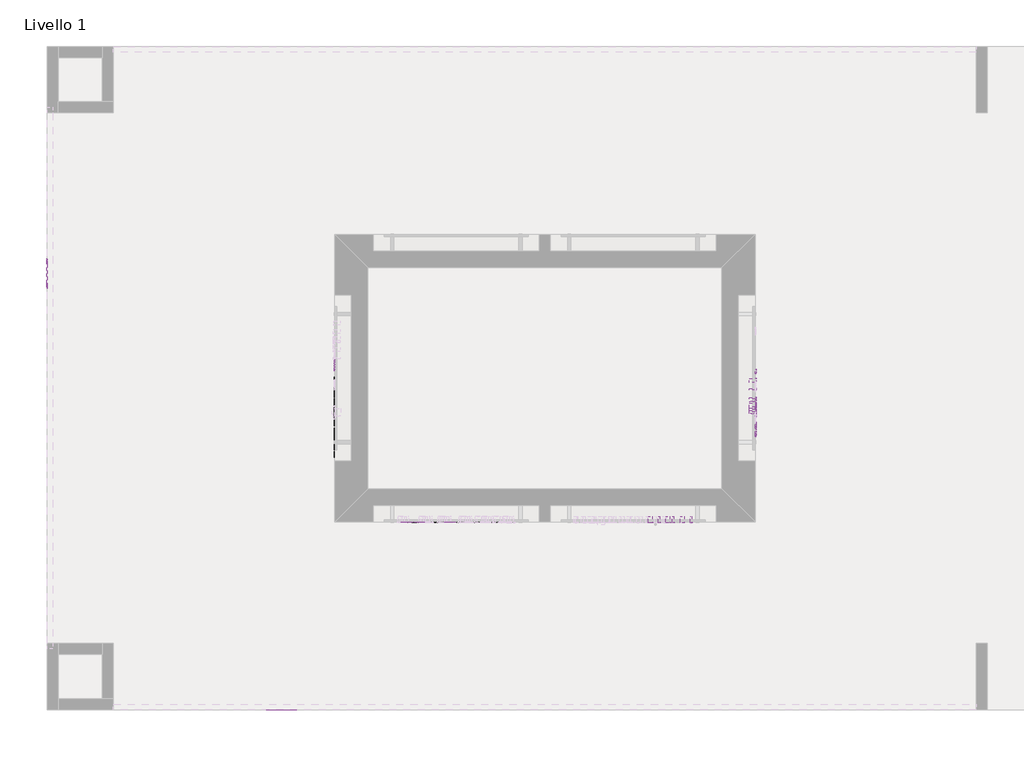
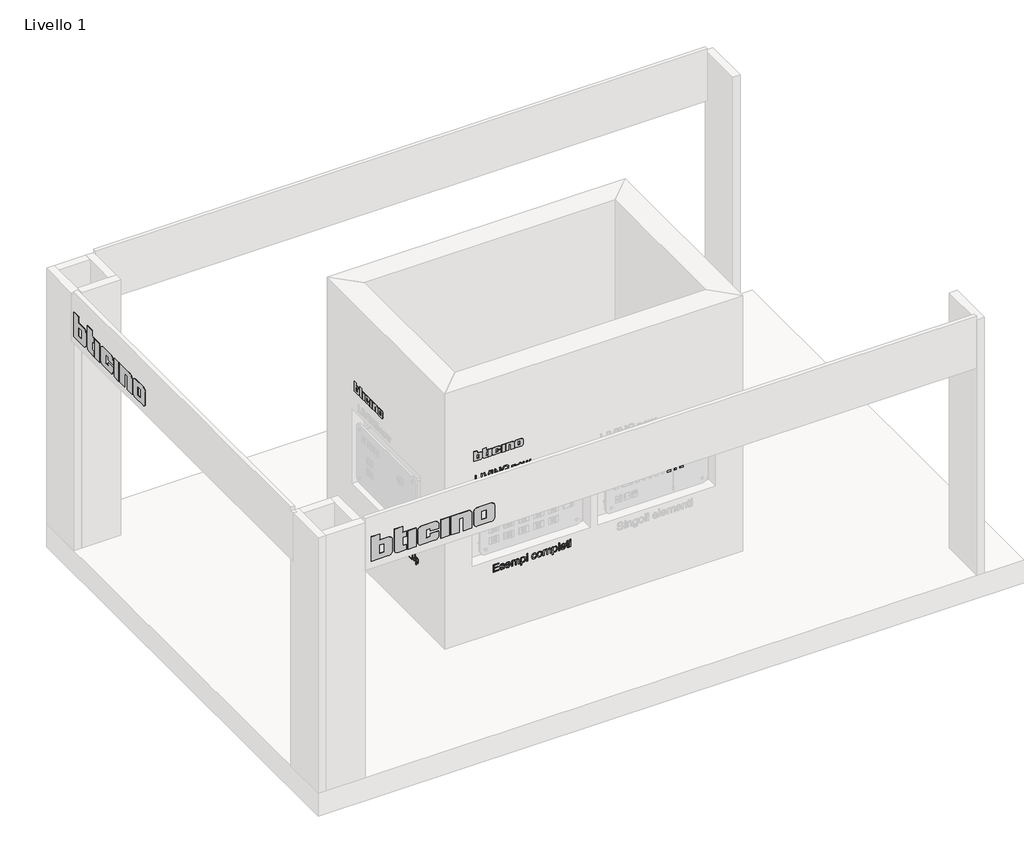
# One storey, part 3 of 4: 29 proxies, 1 switching device.
"""IFC4 building model written with IfcOpenShell, lengths in millimetres."""

from ifc_helpers import new_model, si_unit, frame, origin, place, context, project, spatial, polyline, outline, extrude, transform, mapped, element, save
from components import entourage_2e1bad55, electrical_fixtures_71d92850, communication_devices_b7847fef, communication_devices_3eb54693, electrical_fixtures_146f3771, electrical_fixtures_4785ec01, electrical_fixtures_553a6707, electrical_fixtures_636c4275, electrical_fixtures_52576e28, communication_devices_93ffdf5a, electrical_fixtures_1fd5a0d3, electrical_fixtures_a68487e4, electrical_equipment_0fe7602d, entourage_12fd8e5f

model = new_model("IFC4")

# Units and contexts
model_context = context("Model", 3, world=origin())
ifc_project = project(units=[si_unit("LENGTHUNIT", "METRE", prefix="MILLI")], contexts=[model_context])

# Site, building, storey
site = spatial("IfcSite", under=ifc_project)
building = spatial("IfcBuilding", under=site)
storey = spatial("IfcBuildingStorey", under=building, Name="Livello 1", Elevation=0.0)

# Proxies
placement = place(None, origin())
element("IfcBuildingElementProxy", 1, Name="100mm Helvetica", ObjectType="100mm Helvetica", at=placement, inside=storey, context=model_context, shape_type="SweptSolid", body=[
    extrude(outline(polyline([(2217.0134512, 10556.5528227), (2116.2641352, 10556.5528227), (2116.2641352, 10620.5206424), (2127.4585036, 10620.5206424), (2127.4585036, 10569.3463866), (2217.0134512, 10569.3463866), (2217.0134512, 10556.5528227)])), frame((0.0, 5064.1271843, 0.0), z_axis=(0.0, 1.0, 0.0), x_axis=(0.0, 0.0, 1.0)), (0.0, 0.0, 1.0), 5.0),
    extrude(outline(polyline([(10647.7069658, 5064.1271843), (10634.9134018, 5064.1271843), (10634.9134018, 5069.1271843), (10647.7069658, 5069.1271843), (10647.7069658, 5064.1271843)])), frame((0.0, 0.0, 2116.2641352), z_axis=(0.0, 0.0, 1.0), x_axis=(1.0, 0.0, 0.0)), (0.0, 0.0, 1.0), 100.749316),
    extrude(outline(polyline([(2130.8318066, 10707.6018345), (2217.0134512, 10678.6414036), (2217.0134512, 10663.6989207), (2116.2641352, 10700.480417), (2116.2641352, 10714.8731765), (2217.0134512, 10751.6546728), (2217.0134512, 10736.4373282), (2130.8318066, 10707.6018345)])), frame((0.0, 5064.1271843, 0.0), z_axis=(0.0, 1.0, 0.0), x_axis=(0.0, 0.0, 1.0)), (0.0, 0.0, 1.0), 5.0),
    extrude(outline(polyline([(10778.8409962, 5064.1271843), (10766.0474322, 5064.1271843), (10766.0474322, 5069.1271843), (10778.8409962, 5069.1271843), (10778.8409962, 5064.1271843)])), frame((0.0, 0.0, 2116.2641352), z_axis=(0.0, 0.0, 1.0), x_axis=(1.0, 0.0, 0.0)), (0.0, 0.0, 1.0), 100.749316),
    extrude(outline(polyline([(2217.0134512, 10802.8289286), (2116.2641352, 10802.8289286), (2116.2641352, 10815.8973542), (2198.1229545, 10815.8973542), (2116.2641352, 10865.1975528), (2116.2641352, 10881.1895077), (2217.0134512, 10881.1895077), (2217.0134512, 10868.3959438), (2135.1546319, 10867.2964969), (2217.0134512, 10818.8208835), (2217.0134512, 10802.8289286)])), frame((0.0, 5064.1271843, 0.0), z_axis=(0.0, 1.0, 0.0), x_axis=(0.0, 0.0, 1.0)), (0.0, 0.0, 1.0), 5.0),
    extrude(outline(polyline([(2159.4424135, 10943.5581319), (2159.4424135, 10975.5420418), (2143.8377637, 10973.3556417), (2132.8557884, 10966.7964414), (2126.4090316, 10956.8889256), (2124.2601127, 10944.5576291), (2127.0524579, 10929.9462296), (2135.4294937, 10919.6451618), (2148.6478439, 10913.591957), (2166.0141075, 10911.5742221), (2184.3986088, 10913.898053), (2197.923055, 10920.8695459), (2206.2438691, 10931.5454251), (2209.0174738, 10944.9324405), (2204.0699627, 10963.3481761), (2197.6232059, 10969.6949832), (2188.2279324, 10973.9428463), (2188.2279324, 10986.7364102), (2201.8023535, 10981.8701083), (2211.8910282, 10972.3186633), (2218.1316387, 10959.2939657), (2220.2118422, 10944.0578805), (2216.3013095, 10924.4677357), (2204.5697113, 10909.6252025), (2186.9535735, 10900.2923976), (2165.3894217, 10897.1814626), (2144.6685958, 10900.3111382), (2127.8832899, 10909.7001648), (2116.7701306, 10924.1116648), (2113.0657442, 10942.1588358), (2117.7883684, 10962.3486789), (2129.0576991, 10975.5420418), (2116.2641352, 10978.7404327), (2116.2641352, 10988.3356057), (2170.6367819, 10988.3356057), (2170.6367819, 10943.5581319), (2159.4424135, 10943.5581319)])), frame((0.0, 5064.1271843, 0.0), z_axis=(0.0, 1.0, 0.0), x_axis=(0.0, 0.0, 1.0)), (0.0, 0.0, 1.0), 5.0),
])
element("IfcBuildingElementProxy", 2, Name="100mm Helvetica", ObjectType="100mm Helvetica", at=placement, inside=storey, context=model_context, shape_type="SweptSolid", body=[
    extrude(outline(polyline([(2115.7141484, 11024.1349483), (2115.7141484, 11036.9285122), (2155.4441614, 11036.9285122), (2165.6890075, 11038.2341054), (2173.335161, 11042.150885), (2178.0952663, 11048.1478681), (2179.6819681, 11055.6940718), (2175.6340045, 11066.7385157), (2160.6915216, 11070.5116176), (2115.7141484, 11070.5116176), (2115.7141484, 11083.3051815), (2165.3141961, 11083.3051815), (2175.8588914, 11081.7434672), (2183.9548185, 11077.0583241), (2189.145957, 11069.5371078), (2190.8763365, 11059.4171988), (2187.6779455, 11047.0234338), (2178.0827726, 11036.9285122), (2189.277141, 11036.9285122), (2189.277141, 11024.1349483), (2115.7141484, 11024.1349483)])), frame((0.0, 5064.1271843, 0.0), z_axis=(0.0, 1.0, 0.0), x_axis=(0.0, 0.0, 1.0)), (0.0, 0.0, 1.0), 5.0),
    extrude(outline(polyline([(2152.220783, 11096.0987455), (2136.7972921, 11098.5350198), (2124.6096733, 11105.843843), (2116.738633, 11116.9445086), (2114.1149529, 11130.7563103), (2116.8448296, 11144.6680617), (2125.0344596, 11155.518853), (2137.3844967, 11162.527827), (2152.4956447, 11164.8641516), (2168.2377253, 11162.4466178), (2180.431591, 11155.1940164), (2188.2651501, 11144.1683131), (2190.8763365, 11130.4814485), (2188.183941, 11116.4510068), (2180.1067544, 11105.494019), (2167.7754579, 11098.4475638), (2152.220783, 11096.0987455)]), holes=[polyline([(2152.4956447, 11108.8923094), (2164.1210463, 11110.3853083), (2172.6605004, 11114.8643051), (2177.9266012, 11121.7795762), (2179.6819681, 11130.4814485), (2177.7329486, 11139.8205003), (2171.8858901, 11146.5983406), (2152.4956447, 11152.0705877), (2140.6578499, 11150.4963796), (2132.1308896, 11145.7737554), (2127.0147134, 11138.82725), (2125.3093213, 11130.4814485), (2127.2583408, 11121.261087), (2133.1053994, 11114.4395188), (2141.8634934, 11110.2791117), (2152.4956447, 11108.8923094)])]), frame((0.0, 5064.1271843, 0.0), z_axis=(0.0, 1.0, 0.0), x_axis=(0.0, 0.0, 1.0)), (0.0, 0.0, 1.0), 5.0),
    extrude(outline(polyline([(2189.277141, 11169.6617381), (2115.7141484, 11190.4512795), (2115.7141484, 11203.2448435), (2172.8853872, 11218.3622383), (2115.7141484, 11233.6295578), (2115.7141484, 11246.4231218), (2189.277141, 11267.2126632), (2189.277141, 11254.9938101), (2130.9564804, 11240.3511764), (2189.277141, 11225.6335804), (2189.277141, 11211.2408209), (2130.9564804, 11196.7730992), (2189.277141, 11183.0550004), (2189.277141, 11169.6617381)])), frame((0.0, 5064.1271843, 0.0), z_axis=(0.0, 1.0, 0.0), x_axis=(0.0, 0.0, 1.0)), (0.0, 0.0, 1.0), 5.0),
])
element("IfcBuildingElementProxy", 3, Name="100mm Helvetica", ObjectType="100mm Helvetica", at=placement, inside=storey, context=model_context, shape_type="SweptSolid", body=[
    extrude(outline(polyline([(831.0345174, 10786.4150974), (831.0345174, 10859.9780901), (842.2288859, 10859.9780901), (842.2288859, 10799.2086614), (877.4111867, 10799.2086614), (877.4111867, 10853.5813081), (888.6055552, 10853.5813081), (888.6055552, 10799.2086614), (920.589465, 10799.2086614), (920.589465, 10858.3788946), (931.7838335, 10858.3788946), (931.7838335, 10786.4150974), (831.0345174, 10786.4150974)])), frame((0.0, 5064.1271843, 0.0), z_axis=(0.0, 1.0, 0.0), x_axis=(0.0, 0.0, 1.0)), (0.0, 0.0, 1.0), 5.0),
    extrude(outline(polyline([(855.0224498, 10871.1724585), (843.0472242, 10873.7399169), (835.2074182, 10880.042996), (830.878346, 10889.5819473), (829.4353219, 10901.8070472), (831.0907392, 10914.7193014), (836.0569908, 10924.1707967), (843.6594162, 10929.9991146), (853.2233549, 10931.9418872), (865.267296, 10927.1692882), (872.2887637, 10911.2273081), (875.2872552, 10898.9584802), (878.4856462, 10889.0884455), (884.7824784, 10885.565218), (892.4473725, 10889.3445667), (895.0023371, 10900.6826129), (892.203745, 10912.8827253), (883.8079687, 10917.5491278), (883.8079687, 10930.3426918), (893.6842502, 10927.7252585), (900.6744837, 10921.7220286), (904.8161501, 10912.8952191), (906.1967056, 10901.8070472), (904.5912632, 10889.4257758), (899.7749362, 10880.2678829), (892.5598159, 10874.6457112), (883.6080693, 10872.771654), (872.3324917, 10877.0694919), (865.8919817, 10889.9630056), (862.418729, 10904.4557147), (858.2708157, 10916.049882), (852.123908, 10919.1483233), (843.6281819, 10914.6255986), (840.6296904, 10902.3817581), (844.2278803, 10888.8323244), (855.0224498, 10883.9660225), (855.0224498, 10871.1724585)])), frame((0.0, 5064.1271843, 0.0), z_axis=(0.0, 1.0, 0.0), x_axis=(0.0, 0.0, 1.0)), (0.0, 0.0, 1.0), 5.0),
    extrude(outline(polyline([(864.6176228, 10952.7314287), (864.6176228, 11005.5048799), (882.9708898, 11003.2122832), (895.9018846, 10997.134091), (903.6230003, 10987.3889935), (906.1967056, 10973.9957312), (903.4168541, 10959.6404529), (895.0772994, 10948.8583771), (882.4336601, 10942.1679928), (866.5916297, 10939.9378647), (850.6746371, 10942.1992271), (839.0055075, 10948.9833142), (831.8278683, 10959.5842312), (829.4353219, 10973.1961335), (831.1532077, 10984.6903511), (836.3068651, 10993.7358006), (844.4715077, 11000.1888043), (855.0224498, 11003.9056844), (855.0224498, 10991.1121205), (844.9025409, 10984.8402757), (840.6296904, 10972.5464603), (842.1976516, 10963.8633285), (846.9015352, 10957.6539523), (864.6176228, 10952.7314287)]), holes=[polyline([(874.2127957, 10952.7314287), (889.2552283, 10958.8783363), (893.5655599, 10965.3001057), (895.0023371, 10973.3210706), (890.3296878, 10986.5644083), (874.2127957, 10992.711316), (874.2127957, 10952.7314287)])]), frame((0.0, 5064.1271843, 0.0), z_axis=(0.0, 1.0, 0.0), x_axis=(0.0, 0.0, 1.0)), (0.0, 0.0, 1.0), 5.0),
    extrude(outline(polyline([(904.5975101, 11021.4968348), (831.0345174, 11021.4968348), (831.0345174, 11034.2903988), (870.7645305, 11034.2903988), (881.1780417, 11035.6272263), (888.7804672, 11039.6377087), (893.4468697, 11045.7034072), (895.0023371, 11053.2558578), (891.6227873, 11061.8202993), (881.4841377, 11064.6751131), (831.0345174, 11064.6751131), (831.0345174, 11077.4686771), (875.4871546, 11077.4686771), (889.7299895, 11082.7410247), (895.0023371, 11094.9099029), (890.8169427, 11104.6175193), (878.2607593, 11107.8533914), (831.0345174, 11107.8533914), (831.0345174, 11120.6469554), (881.5341126, 11120.6469554), (892.0475736, 11119.0227725), (899.7999236, 11114.1502237), (904.5975101, 11106.7164634), (906.1967056, 11097.4086459), (903.3981135, 11085.6270728), (895.0023371, 11075.5696324), (903.3981135, 11067.6486173), (906.1967056, 11056.5292111), (902.9983146, 11044.5102575), (893.4031417, 11034.2903988), (904.5975101, 11034.2903988), (904.5975101, 11021.4968348)])), frame((0.0, 5064.1271843, 0.0), z_axis=(0.0, 1.0, 0.0), x_axis=(0.0, 0.0, 1.0)), (0.0, 0.0, 1.0), 5.0),
    extrude(outline(polyline([(893.4031417, 11147.8332787), (904.5975101, 11147.8332787), (904.5975101, 11135.0397148), (802.2489986, 11135.0397148), (802.2489986, 11147.8332787), (839.0304949, 11147.8332787), (831.8341152, 11156.4476951), (829.4353219, 11168.2480087), (832.2963826, 11181.903639), (840.8795647, 11192.0860165), (853.7918189, 11198.4765516), (869.6400961, 11200.60673), (885.1323025, 11198.4078362), (896.6265201, 11191.8111548), (903.8041592, 11182.0660573), (906.1967056, 11170.3219654), (902.9983146, 11157.4534391), (893.4031417, 11147.8332787)]), holes=[polyline([(865.6920823, 11147.8332787), (878.5153188, 11149.1045142), (887.6747734, 11152.9182207), (893.1704462, 11159.2743981), (895.0023371, 11168.1730464), (893.4109502, 11176.7655988), (888.6367895, 11182.9031362), (869.5401464, 11187.8131661), (856.7903105, 11186.4388574), (847.7760953, 11182.3159316), (842.4162916, 11176.0128524), (840.6296904, 11167.9481596), (842.3163419, 11159.7210484), (847.3762964, 11153.3305133), (855.366027, 11149.2075874), (865.6920823, 11147.8332787)])]), frame((0.0, 5064.1271843, 0.0), z_axis=(0.0, 1.0, 0.0), x_axis=(0.0, 0.0, 1.0)), (0.0, 0.0, 1.0), 5.0),
    extrude(outline(polyline([(11226.1938579, 5064.1271843), (11213.4002939, 5064.1271843), (11213.4002939, 5069.1271843), (11226.1938579, 5069.1271843), (11226.1938579, 5064.1271843)])), frame((0.0, 0.0, 831.0345174), z_axis=(0.0, 0.0, 1.0), x_axis=(1.0, 0.0, 0.0)), (0.0, 0.0, 1.0), 73.5629927),
    extrude(outline(polyline([(11226.1938579, 5064.1271843), (11213.4002939, 5064.1271843), (11213.4002939, 5069.1271843), (11226.1938579, 5069.1271843), (11226.1938579, 5064.1271843)])), frame((0.0, 0.0, 917.391074), z_axis=(0.0, 0.0, 1.0), x_axis=(1.0, 0.0, 0.0)), (0.0, 0.0, 1.0), 14.3927594),
    extrude(outline(polyline([(858.2208408, 11326.9431739), (845.027478, 11320.4277017), (840.6296904, 11309.1271366), (842.4475259, 11300.8375569), (847.9010324, 11294.9092892), (867.4162149, 11290.1616776), (879.1290725, 11291.4672708), (887.78097, 11295.3840504), (893.1969954, 11301.6746358), (895.0023371, 11310.1516212), (891.4041473, 11321.2210525), (880.6095777, 11326.9431739), (880.6095777, 11339.7367379), (892.2224856, 11336.4633846), (900.1247602, 11330.6413135), (904.6787192, 11322.4954115), (906.1967056, 11312.2005905), (903.5043101, 11297.8640528), (895.4271234, 11286.7883746), (882.8334589, 11279.7231789), (866.5916297, 11277.3681136), (851.0494485, 11279.5545137), (839.2553818, 11286.113714), (831.8903369, 11296.495991), (829.4353219, 11310.0016967), (831.4593037, 11322.0019097), (837.5312491, 11330.8662004), (846.7890918, 11336.7569869), (858.2208408, 11339.7367379), (858.2208408, 11326.9431739)])), frame((0.0, 5064.1271843, 0.0), z_axis=(0.0, 1.0, 0.0), x_axis=(0.0, 0.0, 1.0)), (0.0, 0.0, 1.0), 5.0),
    extrude(outline(polyline([(867.541152, 11346.1335198), (852.1176611, 11348.5697942), (839.9300424, 11355.8786174), (832.0590021, 11366.9792829), (829.4353219, 11380.7910846), (832.1651986, 11394.7028361), (840.3548287, 11405.5536274), (852.7048657, 11412.5626013), (867.8160138, 11414.898926), (883.5580944, 11412.4813922), (895.75196, 11405.2287908), (903.5855192, 11394.2030875), (906.1967056, 11380.5162229), (903.5043101, 11366.4857812), (895.4271234, 11355.5287933), (883.095827, 11348.4823382), (867.541152, 11346.1335198)]), holes=[polyline([(867.8160138, 11358.9270838), (879.4414154, 11360.4200827), (887.9808694, 11364.8990794), (893.2469702, 11371.8143506), (895.0023371, 11380.5162229), (893.0533176, 11389.8552747), (887.2062591, 11396.633115), (867.8160138, 11402.1053621), (855.978219, 11400.531154), (847.4512587, 11395.8085298), (842.3350825, 11388.8620244), (840.6296904, 11380.5162229), (842.5787099, 11371.2958614), (848.4257684, 11364.4742931), (857.1838625, 11360.3138861), (867.8160138, 11358.9270838)])]), frame((0.0, 5064.1271843, 0.0), z_axis=(0.0, 1.0, 0.0), x_axis=(0.0, 0.0, 1.0)), (0.0, 0.0, 1.0), 5.0),
    extrude(outline(polyline([(904.5975101, 11427.69249), (831.0345174, 11427.69249), (831.0345174, 11440.4860539), (870.7645305, 11440.4860539), (881.1780417, 11441.8228814), (888.7804672, 11445.8333638), (893.4468697, 11451.8990623), (895.0023371, 11459.4515129), (891.6227873, 11468.0159544), (881.4841377, 11470.8707683), (831.0345174, 11470.8707683), (831.0345174, 11483.6643322), (875.4871546, 11483.6643322), (889.7299895, 11488.9366798), (895.0023371, 11501.105558), (890.8169427, 11510.8131744), (878.2607593, 11514.0490466), (831.0345174, 11514.0490466), (831.0345174, 11526.8426105), (881.5341126, 11526.8426105), (892.0475736, 11525.2184276), (899.7999236, 11520.3458788), (904.5975101, 11512.9121185), (906.1967056, 11503.604301), (903.3981135, 11491.8227279), (895.0023371, 11481.7652875), (903.3981135, 11473.8442724), (906.1967056, 11462.7248662), (902.9983146, 11450.7059126), (893.4031417, 11440.4860539), (904.5975101, 11440.4860539), (904.5975101, 11427.69249)])), frame((0.0, 5064.1271843, 0.0), z_axis=(0.0, 1.0, 0.0), x_axis=(0.0, 0.0, 1.0)), (0.0, 0.0, 1.0), 5.0),
    extrude(outline(polyline([(893.4031417, 11554.0289339), (904.5975101, 11554.0289339), (904.5975101, 11541.2353699), (802.2489986, 11541.2353699), (802.2489986, 11554.0289339), (839.0304949, 11554.0289339), (831.8341152, 11562.6433502), (829.4353219, 11574.4436638), (832.2963826, 11588.0992941), (840.8795647, 11598.2816716), (853.7918189, 11604.6722068), (869.6400961, 11606.8023851), (885.1323025, 11604.6034913), (896.6265201, 11598.0068099), (903.8041592, 11588.2617124), (906.1967056, 11576.5176205), (902.9983146, 11563.6490943), (893.4031417, 11554.0289339)]), holes=[polyline([(865.6920823, 11554.0289339), (878.5153188, 11555.3001693), (887.6747734, 11559.1138758), (893.1704462, 11565.4700532), (895.0023371, 11574.3687015), (893.4109502, 11582.9612539), (888.6367895, 11589.0987913), (869.5401464, 11594.0088212), (856.7903105, 11592.6345126), (847.7760953, 11588.5115867), (842.4162916, 11582.2085076), (840.6296904, 11574.1438147), (842.3163419, 11565.9167035), (847.3762964, 11559.5261684), (855.366027, 11555.4032425), (865.6920823, 11554.0289339)])]), frame((0.0, 5064.1271843, 0.0), z_axis=(0.0, 1.0, 0.0), x_axis=(0.0, 0.0, 1.0)), (0.0, 0.0, 1.0), 5.0),
    extrude(outline(polyline([(11632.389513, 5064.1271843), (11619.5959491, 5064.1271843), (11619.5959491, 5069.1271843), (11632.389513, 5069.1271843), (11632.389513, 5064.1271843)])), frame((0.0, 0.0, 831.0345174), z_axis=(0.0, 0.0, 1.0), x_axis=(1.0, 0.0, 0.0)), (0.0, 0.0, 1.0), 100.749316),
    extrude(outline(polyline([(864.6176228, 11657.9766409), (864.6176228, 11710.7500921), (882.9708898, 11708.4574955), (895.9018846, 11702.3793032), (903.6230003, 11692.6342057), (906.1967056, 11679.2409434), (903.4168541, 11664.8856652), (895.0772994, 11654.1035893), (882.4336601, 11647.413205), (866.5916297, 11645.1830769), (850.6746371, 11647.4444393), (839.0055075, 11654.2285264), (831.8278683, 11664.8294434), (829.4353219, 11678.4413457), (831.1532077, 11689.9355633), (836.3068651, 11698.9810128), (844.4715077, 11705.4340165), (855.0224498, 11709.1508966), (855.0224498, 11696.3573327), (844.9025409, 11690.0854879), (840.6296904, 11677.7916725), (842.1976516, 11669.1085408), (846.9015352, 11662.8991645), (864.6176228, 11657.9766409)]), holes=[polyline([(874.2127957, 11657.9766409), (889.2552283, 11664.1235486), (893.5655599, 11670.545318), (895.0023371, 11678.5662829), (890.3296878, 11691.8096205), (874.2127957, 11697.9565282), (874.2127957, 11657.9766409)])]), frame((0.0, 5064.1271843, 0.0), z_axis=(0.0, 1.0, 0.0), x_axis=(0.0, 0.0, 1.0)), (0.0, 0.0, 1.0), 5.0),
    extrude(outline(polyline([(895.0023371, 11718.7460696), (895.0023371, 11728.3412426), (845.5772015, 11728.3412426), (833.4707918, 11731.7645204), (829.4353219, 11742.034354), (830.3848443, 11752.3291749), (840.6296904, 11752.3291749), (840.6296904, 11748.2312365), (842.1226893, 11742.908914), (846.6016861, 11741.1348065), (895.0023371, 11741.1348065), (895.0023371, 11752.3291749), (904.5975101, 11752.3291749), (904.5975101, 11741.1348065), (925.3870515, 11741.1348065), (925.3870515, 11728.3412426), (904.5975101, 11728.3412426), (904.5975101, 11718.7460696), (895.0023371, 11718.7460696)])), frame((0.0, 5064.1271843, 0.0), z_axis=(0.0, 1.0, 0.0), x_axis=(0.0, 0.0, 1.0)), (0.0, 0.0, 1.0), 5.0),
    extrude(outline(polyline([(11777.9163028, 5064.1271843), (11765.1227389, 5064.1271843), (11765.1227389, 5069.1271843), (11777.9163028, 5069.1271843), (11777.9163028, 5064.1271843)])), frame((0.0, 0.0, 831.0345174), z_axis=(0.0, 0.0, 1.0), x_axis=(1.0, 0.0, 0.0)), (0.0, 0.0, 1.0), 73.5629927),
    extrude(outline(polyline([(11777.9163028, 5064.1271843), (11765.1227389, 5064.1271843), (11765.1227389, 5069.1271843), (11777.9163028, 5069.1271843), (11777.9163028, 5064.1271843)])), frame((0.0, 0.0, 917.391074), z_axis=(0.0, 0.0, 1.0), x_axis=(1.0, 0.0, 0.0)), (0.0, 0.0, 1.0), 14.3927594),
])
element("IfcBuildingElementProxy", 4, Name="100mm Helvetica Bold", ObjectType="100mm Helvetica Bold", at=placement, inside=storey, context=model_context, shape_type="SweptSolid", body=[
    extrude(outline(polyline([(6377.8495041, 895.7530766), (6377.8495041, 796.6553887), (6358.0299665, 796.6553887), (6359.0880408, 879.5206689), (6339.862057, 796.6553887), (6320.0425195, 796.6553887), (6301.87461, 879.5206689), (6301.87461, 796.6553887), (6282.0550724, 796.6553887), (6282.0550724, 895.7530766), (6311.7843788, 895.7530766), (6329.1006675, 818.3330079), (6348.1201977, 895.7530766), (6377.8495041, 895.7530766)])), frame((10168.8446289, 0.0, 0.0), z_axis=(1.0, 0.0, 0.0), x_axis=(0.0, 1.0, 0.0)), (0.0, 0.0, 1.0), 5.0),
    extrude(outline(polyline([(6258.9322786, 767.1325358), (6250.6741379, 766.9260823), (6235.4223844, 770.6164389), (6225.3319688, 788.5004748), (6196.1704096, 870.9786546), (6216.8415679, 870.9786546), (6232.8933288, 816.0878259), (6248.9450897, 870.9786546), (6270.4936755, 870.9786546), (6242.6740642, 794.1779465), (6245.848287, 784.9133449), (6255.2161153, 781.7907355), (6258.9322786, 781.997189), (6258.9322786, 767.1325358)])), frame((10168.8446289, 0.0, 0.0), z_axis=(1.0, 0.0, 0.0), x_axis=(0.0, 1.0, 0.0)), (0.0, 0.0, 1.0), 5.0),
])
element("IfcBuildingElementProxy", 5, Name="100mm Helvetica Condensed", ObjectType="100mm Helvetica Condensed", at=placement, inside=storey, context=model_context, shape_type="SweptSolid", body=[
    extrude(outline(polyline([(6185.8058812, 897.4047047), (6185.8058812, 796.6553887), (6174.6115127, 796.6553887), (6174.6115127, 844.6312535), (6131.4332344, 844.6312535), (6131.4332344, 796.6553887), (6120.238866, 796.6553887), (6120.238866, 897.4047047), (6131.4332344, 897.4047047), (6131.4332344, 855.8256219), (6174.6115127, 855.8256219), (6174.6115127, 897.4047047), (6185.8058812, 897.4047047)])), frame((10168.8446289, 0.0, 0.0), z_axis=(1.0, 0.0, 0.0), x_axis=(0.0, 1.0, 0.0)), (0.0, 0.0, 1.0), 5.0),
    extrude(outline(polyline([(6107.445302, 847.0300467), (6104.6404631, 824.7600001), (6096.2259462, 807.7747948), (6083.4198885, 797.036447), (6067.4904022, 793.4569977), (6051.1798575, 797.1051624), (6038.4300216, 808.0496566), (6030.221651, 825.3472047), (6027.4855274, 847.8546319), (6030.1217012, 868.0757093), (6038.0302227, 885.1108894), (6050.6551215, 896.7300441), (6067.4404273, 900.6030957), (6083.57606, 896.9361904), (6096.3508833, 885.9354745), (6104.6716974, 868.875307), (6107.445302, 847.0300467)]), holes=[polyline([(6096.2509336, 847.0300467), (6094.2644329, 864.2838668), (6088.304931, 877.7645851), (6079.1282975, 886.4976917), (6067.4904022, 889.4087273), (6055.7775446, 886.4789511), (6046.6258985, 877.6896228), (6040.6663965, 864.190164), (6038.6798959, 847.0300467), (6040.7163714, 829.7262517), (6046.8257979, 816.2455335), (6056.0149251, 807.549908), (6067.4404273, 804.6513661), (6079.3781718, 807.6186234), (6088.5048304, 816.5203952), (6094.3144078, 830.1198037), (6096.2509336, 847.0300467)])]), frame((10168.8446289, 0.0, 0.0), z_axis=(1.0, 0.0, 0.0), x_axis=(0.0, 1.0, 0.0)), (0.0, 0.0, 1.0), 5.0),
    extrude(outline(polyline([(6016.291159, 897.4047047), (6016.291159, 796.6553887), (6005.121778, 796.6553887), (6005.121778, 880.4882149), (5982.7080536, 796.6553887), (5971.5136852, 796.6553887), (5949.1249483, 880.9130012), (5949.1249483, 796.6553887), (5937.9305798, 796.6553887), (5937.9305798, 897.4047047), (5953.9225348, 897.4047047), (5977.2108191, 812.3974693), (6000.299204, 897.4047047), (6016.291159, 897.4047047)])), frame((10168.8446289, 0.0, 0.0), z_axis=(1.0, 0.0, 0.0), x_axis=(0.0, 1.0, 0.0)), (0.0, 0.0, 1.0), 5.0),
    extrude(outline(polyline([(5920.3394294, 796.6553887), (5859.5700007, 796.6553887), (5859.5700007, 807.8497571), (5909.145061, 807.8497571), (5909.145061, 843.032058), (5862.7683917, 843.032058), (5862.7683917, 854.2264264), (5909.145061, 854.2264264), (5909.145061, 886.2103363), (5859.5700007, 886.2103363), (5859.5700007, 897.4047047), (5920.3394294, 897.4047047), (5920.3394294, 796.6553887)])), frame((10168.8446289, 0.0, 0.0), z_axis=(1.0, 0.0, 0.0), x_axis=(0.0, 1.0, 0.0)), (0.0, 0.0, 1.0), 5.0),
    extrude(outline(polyline([(10168.8446289, 5790.8045945), (10168.8446289, 5854.7724142), (10173.8446289, 5854.7724142), (10173.8446289, 5790.8045945), (10168.8446289, 5790.8045945)])), frame((0.0, 0.0, 779.0642383), z_axis=(0.0, 0.0, 1.0), x_axis=(1.0, 0.0, 0.0)), (0.0, 0.0, 1.0), 6.396782),
    extrude(outline(polyline([(5782.8086171, 897.4047047), (5782.8086171, 830.0136072), (5780.8158695, 814.9836683), (5774.837627, 803.3770072), (5765.0925295, 795.9370001), (5751.8491918, 793.4569977), (5738.5496324, 795.7433475), (5728.0361714, 802.6023969), (5721.1396409, 814.4339448), (5718.8407973, 831.5878152), (5718.8407973, 897.4047047), (5730.0351658, 897.4047047), (5730.0351658, 832.562325), (5731.3345121, 820.3512805), (5735.2325511, 811.6291059), (5741.7292828, 806.3958011), (5750.8247072, 804.6513661), (5759.9201316, 806.4176651), (5766.4168633, 811.7165619), (5770.3149023, 820.5480565), (5771.6142486, 832.912149), (5771.6142486, 897.4047047), (5782.8086171, 897.4047047)])), frame((10168.8446289, 0.0, 0.0), z_axis=(1.0, 0.0, 0.0), x_axis=(0.0, 1.0, 0.0)), (0.0, 0.0, 1.0), 5.0),
    extrude(outline(polyline([(5694.852865, 859.0240129), (5694.852865, 870.2183813), (5704.4480379, 870.2183813), (5704.4480379, 767.8698698), (5694.852865, 767.8698698), (5694.852865, 804.6513661), (5688.193715, 797.4549864), (5678.3111866, 795.0561932), (5667.4229141, 797.8360447), (5658.9459287, 806.1755993), (5653.4924222, 819.0316319), (5651.6745867, 835.2609674), (5653.3799787, 849.9660697), (5658.4961549, 861.647693), (5666.3921827, 869.2751059), (5676.4371294, 871.8175768), (5686.9380966, 868.6191858), (5694.852865, 859.0240129)]), holes=[polyline([(5694.852865, 831.3129535), (5690.7986545, 853.2956447), (5685.7308915, 858.7913175), (5678.6360232, 860.6232084), (5671.7379309, 859.0318215), (5666.8107221, 854.2576607), (5662.8689551, 835.1610177), (5666.9419061, 813.9217025), (5671.895664, 808.1683469), (5678.7609603, 806.2505616), (5685.5450474, 807.8872383), (5690.6549768, 812.7972682), (5694.852865, 831.3129535)])]), frame((10168.8446289, 0.0, 0.0), z_axis=(1.0, 0.0, 0.0), x_axis=(0.0, 1.0, 0.0)), (0.0, 0.0, 1.0), 5.0),
])
entourage_shape = entourage_2e1bad55(model_context)
element("IfcBuildingElementProxy", 6, Name="BTicino_Logo_Grande : BTicino_Logo_Grande", ObjectType="BTicino_Logo_Grande : BTicino_Logo_Grande", at=placement, inside=storey, context=model_context, shape_type="MappedRepresentation", body=[
    mapped(entourage_shape, transform((9033.8446289, 3369.1271843, 2900.0), x_axis=(1.0, 0.0, 0.0), y_axis=(0.0, 0.0, 1.0), z_axis=(0.0, -1.0, 0.0))),
])
element("IfcBuildingElementProxy", 7, Name="BTicino_Logo_Grande : BTicino_Logo_Grande", ObjectType="BTicino_Logo_Grande : BTicino_Logo_Grande", at=placement, inside=storey, context=model_context, shape_type="MappedRepresentation", body=[
    mapped(entourage_shape, transform((7573.8446289, 7969.1271843, 2900.0), x_axis=(0.0, -1.0, 0.0), y_axis=(0.0, 0.0, 1.0), z_axis=(-1.0, 0.0, 0.0))),
])
electrical_fixtures_shape = electrical_fixtures_71d92850(model_context)
element("IfcBuildingElementProxy", 8, Name="BT_LN-ScatolaIncasso50x_ConPlacca : Scatola da incasso 504E - 4M - Placca Sky", ObjectType="BT_LN-ScatolaIncasso50x_ConPlacca : Scatola da incasso 504E - 4M - Placca Sky", at=placement, inside=storey, context=model_context, shape_type="MappedRepresentation", body=[
    mapped(electrical_fixtures_shape, transform((13973.8446289, 6104.1271843, 1600.0), x_axis=(0.0, 1.0, 0.0), y_axis=(0.0, 0.0, 1.0), z_axis=(1.0, 0.0, 0.0))),
])
communication_devices_shape = communication_devices_b7847fef(model_context)
element("IfcBuildingElementProxy", 9, Name="BT_LN-SegnalazioneAcustica_Suoneria_K4351V12 : Suoneria - Art. K4355V12 - 2M - Cover Sabbia", ObjectType="BT_LN-SegnalazioneAcustica_Suoneria_K4351V12 : Suoneria - Art. K4355V12 - 2M - Cover Sabbia", at=placement, inside=storey, context=model_context, shape_type="MappedRepresentation", body=[
    mapped(communication_devices_shape, transform((13313.8446289, 5119.1271843, 1600.0), x_axis=(-1.0, 0.0, 0.0), y_axis=(0.0, 0.0, -1.0), z_axis=(0.0, -1.0, 0.0))),
])
communication_devices_2_shape = communication_devices_3eb54693(model_context)
element("IfcBuildingElementProxy", 10, Name="BT_LN-SegnalazioneAcustica_Suoneria_Ronzatore : Suoneria_Ronzatore - Art. K4351V230 - 1M - Cover Sabbia", ObjectType="BT_LN-SegnalazioneAcustica_Suoneria_Ronzatore : Suoneria_Ronzatore - Art. K4351V230 - 1M - Cover Sabbia", at=placement, inside=storey, context=model_context, shape_type="MappedRepresentation", body=[
    mapped(communication_devices_2_shape, transform((13393.8446289, 5119.1271843, 1600.0), x_axis=(-1.0, 0.0, 0.0), y_axis=(0.0, 0.0, -1.0), z_axis=(0.0, -1.0, 0.0))),
])
electrical_fixtures_2_shape = electrical_fixtures_146f3771(model_context)
element("IfcBuildingElementProxy", 11, Name="BT_LN-USB_A-K4285C2 : Presa USB-A - Art. K4285C2 - 2M - Cover Nero", ObjectType="BT_LN-USB_A-K4285C2 : Presa USB-A - Art. K4285C2 - 2M - Cover Nero", at=placement, inside=storey, context=model_context, shape_type="MappedRepresentation", body=[
    mapped(electrical_fixtures_2_shape, transform((13026.8446289, 5119.1271843, 1450.0), x_axis=(1.0, 0.0, 0.0), y_axis=(0.0, 0.0, 1.0), z_axis=(0.0, -1.0, 0.0))),
])
electrical_fixtures_3_shape = electrical_fixtures_4785ec01(model_context)
element("IfcBuildingElementProxy", 12, Name="BT_LN-USB_A-K4286C1 : Presa USB-C - Art. K4286C1 - 1M - Cover Nero", ObjectType="BT_LN-USB_A-K4286C1 : Presa USB-C - Art. K4286C1 - 1M - Cover Nero", at=placement, inside=storey, context=model_context, shape_type="MappedRepresentation", body=[
    mapped(electrical_fixtures_3_shape, transform((13106.8446289, 5119.1271843, 1450.0), x_axis=(1.0, 0.0, 0.0), y_axis=(0.0, 0.0, 1.0), z_axis=(0.0, -1.0, 0.0))),
])
electrical_fixtures_4_shape = electrical_fixtures_553a6707(model_context)
element("IfcBuildingElementProxy", 13, Name="BT_LN-USB_A-K4286C2 : Presa USB-C - K4286C2 - 2M - Cover Nero", ObjectType="BT_LN-USB_A-K4286C2 : Presa USB-C - K4286C2 - 2M - Cover Nero", at=placement, inside=storey, context=model_context, shape_type="MappedRepresentation", body=[
    mapped(electrical_fixtures_4_shape, transform((13186.8446289, 5119.1271843, 1450.0), x_axis=(1.0, 0.0, 0.0), y_axis=(0.0, 0.0, 1.0), z_axis=(0.0, -1.0, 0.0))),
])
electrical_fixtures_5_shape = electrical_fixtures_636c4275(model_context)
element("IfcBuildingElementProxy", 14, Name="BT_LNsmart-ComandiScenariWireless : Comandi Wireless - Art. K4570CW - 2M - Cover Bianco", ObjectType="BT_LNsmart-ComandiScenariWireless : Comandi Wireless - Art. K4570CW - 2M - Cover Bianco", at=placement, inside=storey, context=model_context, shape_type="MappedRepresentation", body=[
    mapped(electrical_fixtures_5_shape, transform((13973.8446289, 5869.1271843, 1750.0), x_axis=(0.0, 1.0, 0.0), y_axis=(0.0, 0.0, 1.0), z_axis=(1.0, 0.0, 0.0))),
])
element("IfcBuildingElementProxy", 15, Name="BT_LNsmart-ComandiScenariWireless : Comandi scenari Wireless - Art. K4574CW - 2M - Cover Bianco", ObjectType="BT_LNsmart-ComandiScenariWireless : Comandi scenari Wireless - Art. K4574CW - 2M - Cover Bianco", at=placement, inside=storey, context=model_context, shape_type="MappedRepresentation", body=[
    mapped(electrical_fixtures_5_shape, transform((13973.8446289, 5949.1271843, 1750.0), x_axis=(0.0, 1.0, 0.0), y_axis=(0.0, 0.0, 1.0), z_axis=(1.0, 0.0, 0.0))),
])
element("IfcBuildingElementProxy", 16, Name="BT_LNsmart-ComandiScenariWireless : Comandi scenari Wireless - Art. K4574CW - 2M - Cover Bianco", ObjectType="BT_LNsmart-ComandiScenariWireless : Comandi scenari Wireless - Art. K4574CW - 2M - Cover Bianco", at=placement, inside=storey, context=model_context, shape_type="MappedRepresentation", body=[
    mapped(electrical_fixtures_5_shape, transform((13973.8446289, 5887.1271843, 1600.0), x_axis=(0.0, 1.0, 0.0), y_axis=(0.0, 0.0, 1.0), z_axis=(1.0, 0.0, 0.0))),
])
element("IfcBuildingElementProxy", 17, Name="BT_LNsmart-ComandiWireless : Comandi Wireless - Art. K4027CW - 2M - Cover Bianco", ObjectType="BT_LNsmart-ComandiWireless : Comandi Wireless - Art. K4027CW - 2M - Cover Bianco", at=placement, inside=storey, context=model_context, shape_type="MappedRepresentation", body=[
    mapped(electrical_fixtures_5_shape, transform((13973.8446289, 6029.1271843, 1750.0), x_axis=(0.0, 1.0, 0.0), y_axis=(0.0, 0.0, 1.0), z_axis=(1.0, 0.0, 0.0))),
])
element("IfcBuildingElementProxy", 18, Name="BT_LNsmart-ComandiWireless : Comandi Wireless - Art. K4003CW - 2M - Cover Bianco", ObjectType="BT_LNsmart-ComandiWireless : Comandi Wireless - Art. K4003CW - 2M - Cover Bianco", at=placement, inside=storey, context=model_context, shape_type="MappedRepresentation", body=[
    mapped(electrical_fixtures_5_shape, transform((13973.8446289, 6109.1271843, 1750.0), x_axis=(0.0, 1.0, 0.0), y_axis=(0.0, 0.0, 1.0), z_axis=(1.0, 0.0, 0.0))),
])
element("IfcBuildingElementProxy", 19, Name="BT_LNsmart-ComandiWireless : Comandi Wireless - Art. K4003CW - 2M - Cover Bianco", ObjectType="BT_LNsmart-ComandiWireless : Comandi Wireless - Art. K4003CW - 2M - Cover Bianco", at=placement, inside=storey, context=model_context, shape_type="MappedRepresentation", body=[
    mapped(electrical_fixtures_5_shape, transform((13973.8446289, 5931.1271843, 1600.0), x_axis=(0.0, 1.0, 0.0), y_axis=(0.0, 0.0, 1.0), z_axis=(1.0, 0.0, 0.0))),
])
electrical_fixtures_6_shape = electrical_fixtures_52576e28(model_context)
element("IfcBuildingElementProxy", 20, Name="BT_LNsmart-DispositivoConnesso : Dispositivo connesso - Art. K4003C - 1M - Cover Bianco", ObjectType="BT_LNsmart-DispositivoConnesso : Dispositivo connesso - Art. K4003C - 1M - Cover Bianco", at=placement, inside=storey, context=model_context, shape_type="MappedRepresentation", body=[
    mapped(electrical_fixtures_6_shape, transform((13923.8446289, 6189.1271843, 1750.0), x_axis=(0.0, 1.0, 0.0), y_axis=(0.0, 0.0, 1.0), z_axis=(1.0, 0.0, 0.0))),
])
element("IfcBuildingElementProxy", 21, Name="BT_LNsmart-DispositivoConnesso : Dispositivo connesso - Art. K4003C - 1M - Cover Bianco", ObjectType="BT_LNsmart-DispositivoConnesso : Dispositivo connesso - Art. K4003C - 1M - Cover Bianco", at=placement, inside=storey, context=model_context, shape_type="MappedRepresentation", body=[
    mapped(electrical_fixtures_6_shape, transform((13923.8446289, 6071.1271843, 1600.0), x_axis=(0.0, 1.0, 0.0), y_axis=(0.0, 0.0, 1.0), z_axis=(1.0, 0.0, 0.0))),
])
element("IfcBuildingElementProxy", 22, Name="BT_LNsmart-DispositivoConnesso : Dispositivo connesso - Art. K4003C - 1M - Cover Bianco", ObjectType="BT_LNsmart-DispositivoConnesso : Dispositivo connesso - Art. K4003C - 1M - Cover Bianco", at=placement, inside=storey, context=model_context, shape_type="MappedRepresentation", body=[
    mapped(electrical_fixtures_6_shape, transform((13923.8446289, 6093.1271843, 1600.0), x_axis=(0.0, 1.0, 0.0), y_axis=(0.0, 0.0, 1.0), z_axis=(1.0, 0.0, 0.0))),
])
communication_devices_3_shape = communication_devices_93ffdf5a(model_context)
element("IfcBuildingElementProxy", 23, Name="BT_LNsmart-DispositivoConnessoEnergia : Disp. connesso per energia - Art. K4531C - 1M - Cover Bianco", ObjectType="BT_LNsmart-DispositivoConnessoEnergia : Disp. connesso per energia - Art. K4531C - 1M - Cover Bianco", at=placement, inside=storey, context=model_context, shape_type="MappedRepresentation", body=[
    mapped(communication_devices_3_shape, transform((13923.8446289, 6269.1271843, 1750.0), x_axis=(0.0, 1.0, 0.0), y_axis=(0.0, 0.0, 1.0), z_axis=(1.0, 0.0, 0.0))),
])
electrical_fixtures_7_shape = electrical_fixtures_1fd5a0d3(model_context)
element("IfcBuildingElementProxy", 24, Name="BT_LNsmart-DispositivoConnessoTapparelle : Dispositivo connesso tapparelle - Art. K4027C - 2M - Cover Bianco", ObjectType="BT_LNsmart-DispositivoConnessoTapparelle : Dispositivo connesso tapparelle - Art. K4027C - 2M - Cover Bianco", at=placement, inside=storey, context=model_context, shape_type="MappedRepresentation", body=[
    mapped(electrical_fixtures_7_shape, transform((13923.8446289, 6349.1271843, 1750.0), x_axis=(0.0, 1.0, 0.0), y_axis=(0.0, 0.0, 1.0), z_axis=(1.0, 0.0, 0.0))),
])
element("IfcBuildingElementProxy", 25, Name="BT_LNsmart-DispositivoConnessoTapparelle : Dispositivo connesso tapparelle - Art. K4027C - 2M - Cover Bianco", ObjectType="BT_LNsmart-DispositivoConnessoTapparelle : Dispositivo connesso tapparelle - Art. K4027C - 2M - Cover Bianco", at=placement, inside=storey, context=model_context, shape_type="MappedRepresentation", body=[
    mapped(electrical_fixtures_7_shape, transform((13923.8446289, 6126.1271843, 1600.0), x_axis=(0.0, 1.0, 0.0), y_axis=(0.0, 0.0, 1.0), z_axis=(1.0, 0.0, 0.0))),
])
electrical_fixtures_8_shape = electrical_fixtures_a68487e4(model_context)
element("IfcBuildingElementProxy", 26, Name="BT_LNsmart-Gateway : Gateway - Art. K4500C - 2M - Cover Bianco", ObjectType="BT_LNsmart-Gateway : Gateway - Art. K4500C - 2M - Cover Bianco", at=placement, inside=storey, context=model_context, shape_type="MappedRepresentation", body=[
    mapped(electrical_fixtures_8_shape, transform((13973.8446289, 6429.1271843, 1750.0), x_axis=(0.0, 1.0, 0.0), y_axis=(0.0, 0.0, 1.0), z_axis=(1.0, 0.0, 0.0))),
])
electrical_equipment_shape = electrical_equipment_0fe7602d(model_context)
element("IfcBuildingElementProxy", 27, Name="BT_LN_PlaccaSuperficiale_Placca : Living Now - Placca 3 Moduli", ObjectType="BT_LN_PlaccaSuperficiale_Placca : Living Now - Placca 3 Moduli", at=placement, inside=storey, context=model_context, shape_type="MappedRepresentation", body=[
    mapped(electrical_equipment_shape, transform((13973.8446289, 5909.1271843, 1600.0), x_axis=(0.0, 1.0, 0.0), y_axis=(0.0, 0.0, 1.0), z_axis=(1.0, 0.0, 0.0))),
])
entourage_2_shape = entourage_12fd8e5f(model_context)
element("IfcBuildingElementProxy", 28, Name="BTicino_Logo : BTicino_Logo", ObjectType="BTicino_Logo : BTicino_Logo", at=placement, inside=storey, context=model_context, shape_type="MappedRepresentation", body=[
    mapped(entourage_2_shape, transform((10853.8446289, 5069.1271843, 2411.5959088), x_axis=(1.0, 0.0, 0.0), y_axis=(0.0, 0.0, 1.0), z_axis=(0.0, -1.0, 0.0))),
])
element("IfcBuildingElementProxy", 29, Name="BTicino_Logo : BTicino_Logo", ObjectType="BTicino_Logo : BTicino_Logo", at=placement, inside=storey, context=model_context, shape_type="MappedRepresentation", body=[
    mapped(entourage_2_shape, transform((10173.8446289, 6749.1271843, 2282.0645179), x_axis=(0.0, -1.0, 0.0), y_axis=(0.0, 0.0, 1.0), z_axis=(-1.0, 0.0, 0.0))),
])

# Switching device
element("IfcSwitchingDevice", 30, ObjectType="BT_LN-PulsantiConSimboli_1M2M : Comando con simbolo - Art. K4034 - 1M - Cover Sabbia", at=placement, inside=storey, context=model_context, shape_type="MappedRepresentation", body=[
    mapped(communication_devices_2_shape, transform((13233.8446289, 5119.1271843, 1600.0), x_axis=(-1.0, 0.0, 0.0), y_axis=(0.0, 0.0, -1.0), z_axis=(0.0, -1.0, 0.0))),
])

save(model, "model.ifc")
